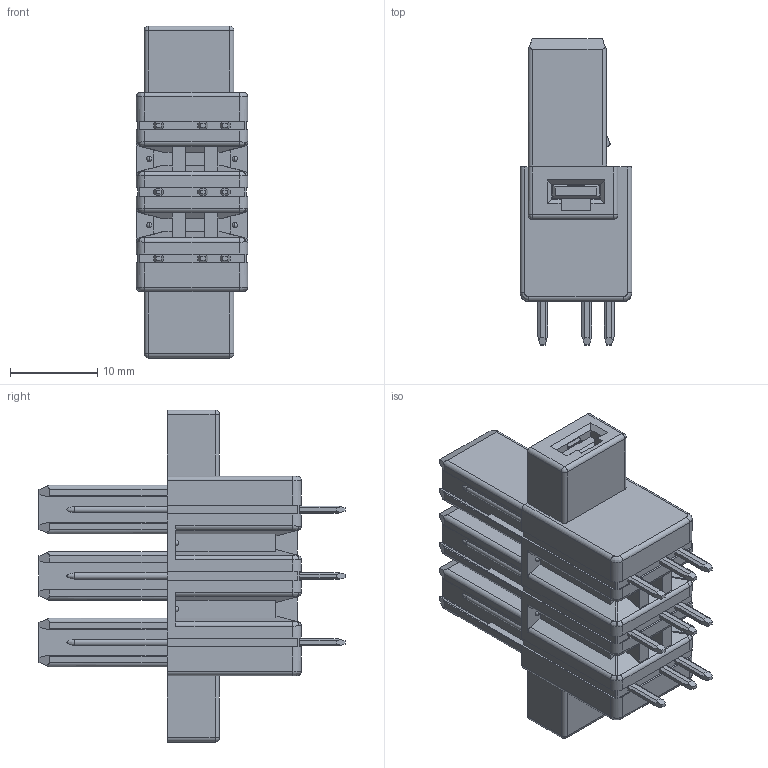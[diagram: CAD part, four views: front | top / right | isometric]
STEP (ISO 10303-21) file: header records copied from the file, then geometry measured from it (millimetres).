
FILE_DESCRIPTION((''),'2;1');
FILE_NAME('KS0302X00000G','2019-05-13T',('zhenbing.lai'),(''),'CREO PARAMETRIC BY PTC INC, 2016260','CREO PARAMETRIC BY PTC INC, 2016260','');
FILE_SCHEMA(('CONFIG_CONTROL_DESIGN'));
Length unit declared in the file: millimetre
Products named in the file (1): KS0302X00000G
Bounding box: 12.8 x 35.1 x 38.08 mm (x, y, z)
Volume: 6498.4 mm3; surface area: 5522.3 mm2
Topology: 1 solids, 16 shells, 865 faces, 2344 edges, 1521 vertices
Faces by surface type: plane 619, cylinder 183, bspline 31, sphere 20, cone 8, torus 4
Entity records: 29684 total; most frequent: CARTESIAN_POINT 8234, ORIENTED_EDGE 4650, DIRECTION 4114, EDGE_CURVE 2325, VECTOR 1734, LINE 1734, VERTEX_POINT 1521, AXIS2_PLACEMENT_3D 1190
